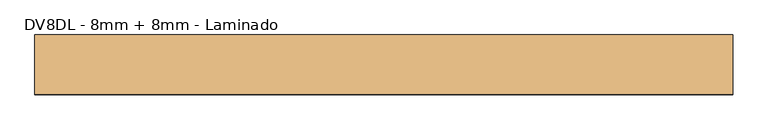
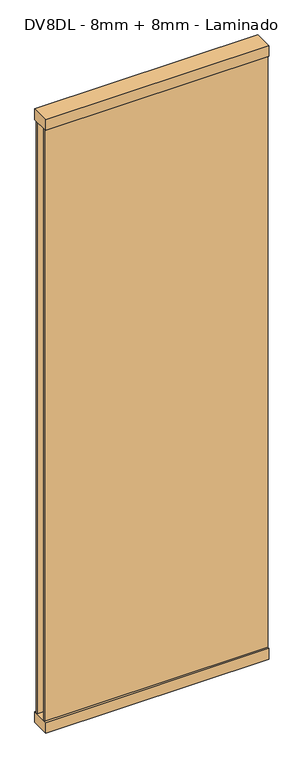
"""IFC4 building model written with IfcOpenShell, lengths in millimetres: door geometry, Mobiliário_Mobiliário de Escritório_Painel Vidro Duplo - DVDT, DVDL e DVXL (Complementar)_Marelli : DV8DL - 8mm + 8mm - Laminado."""

from ifc_helpers import new_model, si_unit, frame, origin, origin_with_axes, place, context, project, spatial, polyline, outline, extrude, source, transform, mapped, element, save


def dv8dl_8mm_8mm_laminado_8a779c50(model_context):
    return source(origin(), model_context, "Body", "SweptSolid", [
        extrude(outline(polyline([(500.0, 42.5), (500.0, -42.5), (-500.0, -42.5), (-500.0, 42.5), (500.0, 42.5)])), origin_with_axes(), (0.0, 0.0, 1.0), 50.0),
        extrude(outline(polyline([(500.0, 42.5), (500.0, -42.5), (-500.0, -42.5), (-500.0, 42.5), (500.0, 42.5)])), frame((0.0, 0.0, 2850.0), z_axis=(0.0, 0.0, 1.0), x_axis=(1.0, 0.0, 0.0)), (0.0, 0.0, 1.0), 50.0),
        extrude(outline(polyline([(500.0, 33.1), (500.0, 25.1), (-500.0, 25.1), (-500.0, 33.1), (500.0, 33.1)])), frame((0.0, 0.0, 50.0), z_axis=(0.0, 0.0, 1.0), x_axis=(1.0, 0.0, 0.0)), (0.0, 0.0, 1.0), 2800.0),
        extrude(outline(polyline([(500.0, -33.1), (-500.0, -33.1), (-500.0, -25.1), (500.0, -25.1), (500.0, -33.1)])), frame((0.0, 0.0, 50.0), z_axis=(0.0, 0.0, 1.0), x_axis=(1.0, 0.0, 0.0)), (0.0, 0.0, 1.0), 2800.0),
    ])


if __name__ == "__main__":
    model = new_model("IFC4")
    model_context = context("Model", 3, world=origin())
    ifc_project = project(units=[si_unit("LENGTHUNIT", "METRE", prefix="MILLI")], contexts=[model_context])
    site = spatial("IfcSite", under=ifc_project)
    building = spatial("IfcBuilding", under=site)
    placement = place(None, origin())
    dv8dl_8mm_8mm_laminado_shape = dv8dl_8mm_8mm_laminado_8a779c50(model_context)
    element("IfcDoor", 1, ObjectType="Mobiliário_Mobiliário de Escritório_Painel Vidro Duplo - DVDT, DVDL e DVXL (Complementar)_Marelli : DV8DL - 8mm + 8mm - Laminado", at=placement, inside=building, context=model_context, shape_type="MappedRepresentation", body=[
        mapped(dv8dl_8mm_8mm_laminado_shape, transform((0.0, 0.0, 0.0), x_axis=(1.0, 0.0, 0.0), y_axis=(0.0, 1.0, 0.0), z_axis=(0.0, 0.0, 1.0))),
    ])
    save(model, "model.ifc")
